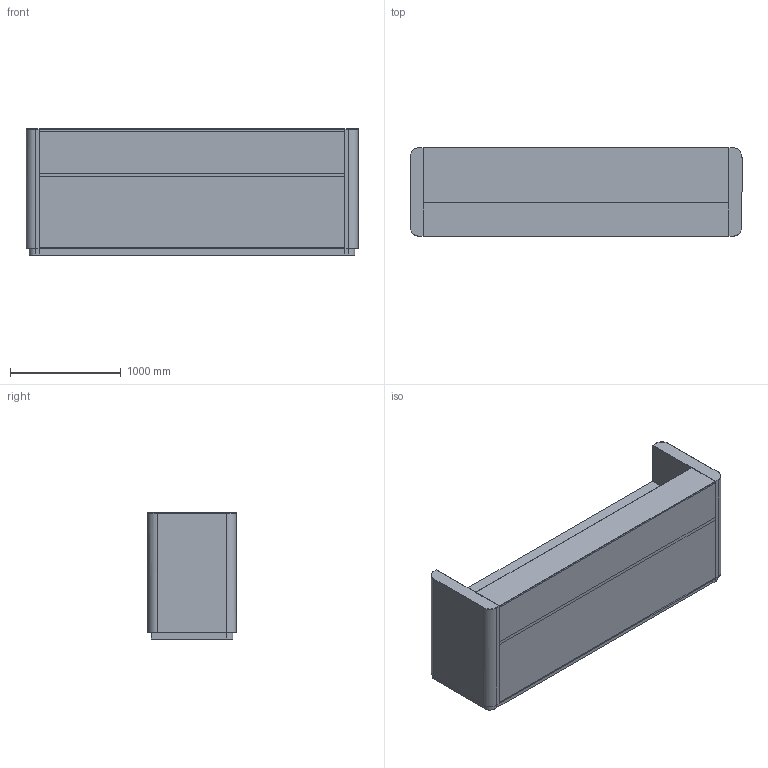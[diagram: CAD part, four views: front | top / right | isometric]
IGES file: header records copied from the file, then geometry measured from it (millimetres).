
Start section: Comment
Global section: file name: Linear - 300 x 80.igs; native system:  By UGS Corp.; preprocessor: XPlus GENERIC/IGES 3.0; author: Author; organization: Title; date: 20181120.104309; units: inch
Bounding box: 3000 x 800 x 1140.01 mm (x, y, z)
Surface area: 19205555.7 mm2 (no closed solid volume)
Topology: 0 solids, 0 shells, 72 faces, 364 edges, 364 vertices
Faces by surface type: bspline 72
